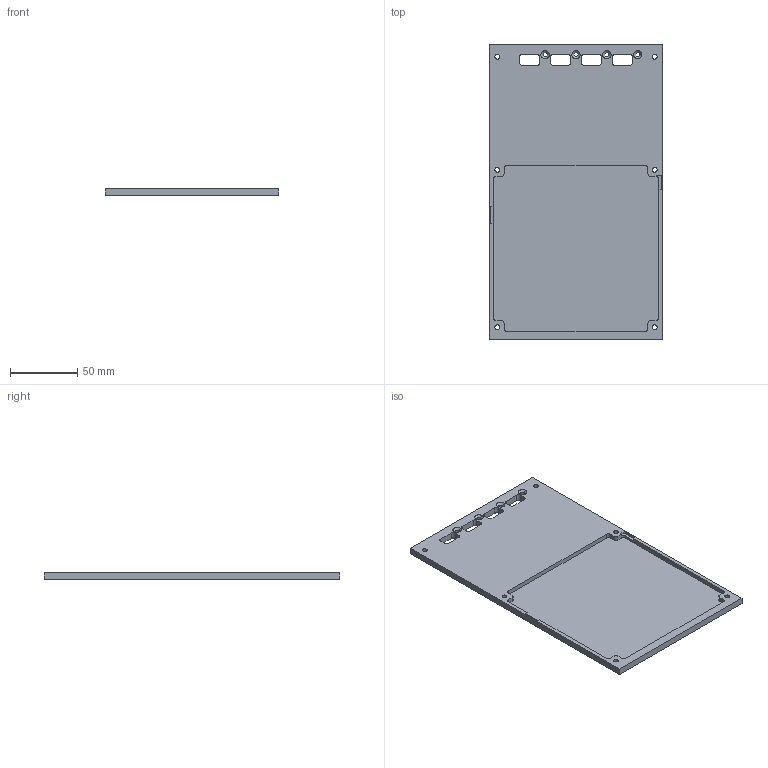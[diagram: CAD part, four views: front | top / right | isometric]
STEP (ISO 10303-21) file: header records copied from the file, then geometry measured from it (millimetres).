
FILE_DESCRIPTION (( 'STEP AP214' ), '1' );
FILE_NAME ('Jetson_node_zero_top.STEP', '2015-02-27T03:13:37', ( '' ), ( '' ), '', '', '' );
FILE_SCHEMA (( '' ));
Length unit declared in the file: millimetre
Products named in the file (1): Jetson_node_zero_top
Bounding box: 129 x 220 x 5 mm (x, y, z)
Volume: 86796.5 mm3; surface area: 62156.1 mm2
Topology: 1 solids, 1 shells, 112 faces, 306 edges, 197 vertices
Faces by surface type: cylinder 48, plane 44, cone 20
Entity records: 3637 total; most frequent: DIRECTION 648, CARTESIAN_POINT 616, ORIENTED_EDGE 612, EDGE_CURVE 306, AXIS2_PLACEMENT_3D 229, VERTEX_POINT 197, LINE 190, VECTOR 190
